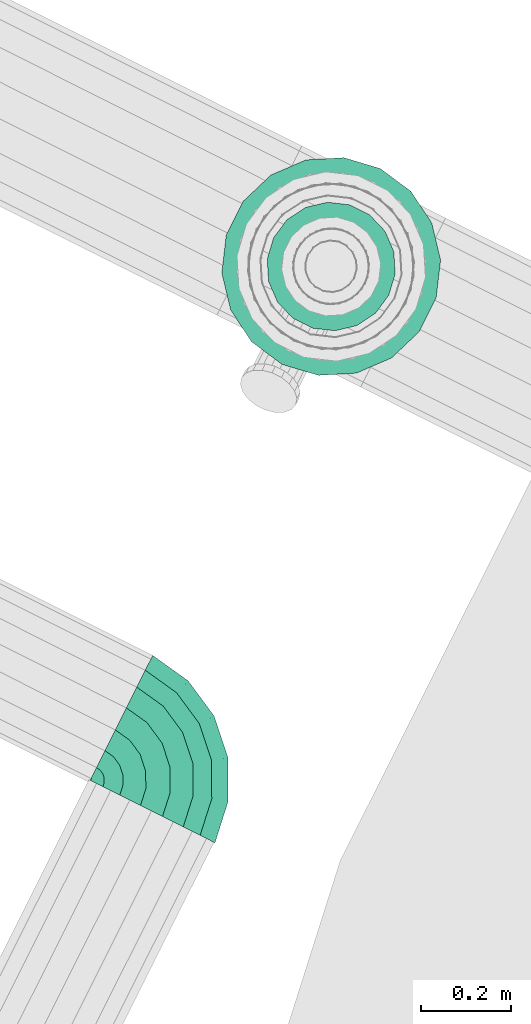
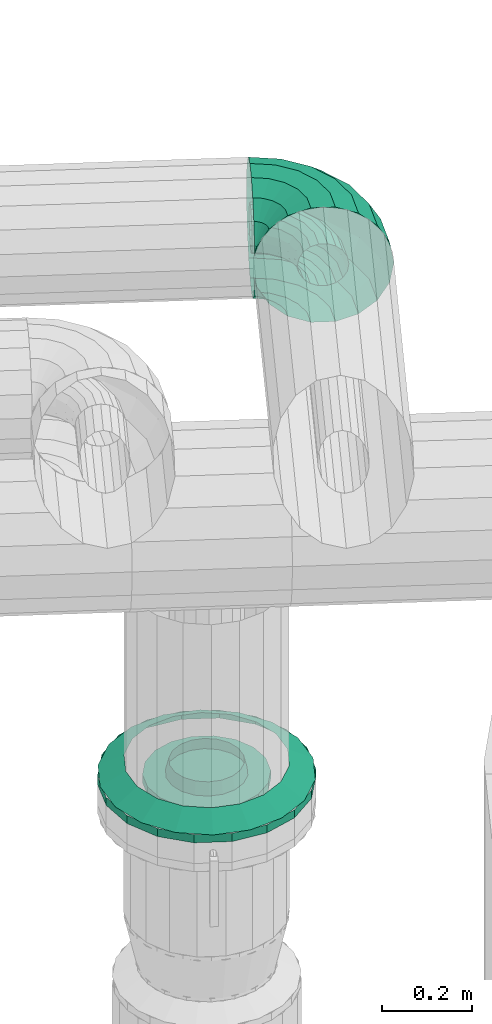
# One storey, part 58 of 152: 1 flow fitting, 1 flow segment.
"""IFC2X3 building model written with IfcOpenShell, lengths in metres."""

from ifc_helpers import new_model, si_unit, derived_unit, direction, frame, origin, place, context, subcontext, project, spatial, face_set, surface_model, source, transform, mapped, material, type_object, type_shapes, element, save


model = new_model("IFC2X3")

# Units and contexts
model_context = context("Model", 3, precision=5.2338327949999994e-05, world=origin(), true_north=direction((0.0, 1.0)))
body_context = subcontext(model_context, "Body", "Model", "MODEL_VIEW")
ifc_project = project(units=[si_unit("LENGTHUNIT", "METRE"), si_unit("AREAUNIT", "SQUARE_METRE"), si_unit("VOLUMEUNIT", "CUBIC_METRE"), si_unit("MASSUNIT", "GRAM", prefix="KILO"), si_unit("PLANEANGLEUNIT", "RADIAN"), derived_unit("THERMALTRANSMITTANCEUNIT", [(si_unit("MASSUNIT", "GRAM", prefix="KILO"), 1), (si_unit("THERMODYNAMICTEMPERATUREUNIT", "KELVIN"), -1), (si_unit("TIMEUNIT", "SECOND"), -3)])], contexts=[model_context])

# Site, building, storey
site_placement = place(None, frame((0.0, 0.0, 0.0), z_axis=(0.0, 0.0, 1.0), x_axis=(0.8939966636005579, -0.4480736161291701, 0.0)))
site = spatial("IfcSite", under=ifc_project, at=site_placement, Name="Default", CompositionType="ELEMENT")
building_placement = place(site_placement, origin())
building = spatial("IfcBuilding", under=site, at=building_placement, CompositionType="ELEMENT")
storey_placement = place(building_placement, frame((0.0, 0.0, 2.7499999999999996)))
storey = spatial("IfcBuildingStorey", under=building, at=storey_placement, Name="1. Obergeschoss", CompositionType="ELEMENT", Elevation=2.7499999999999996)

# Flow segment
ifc_material = material(Name="IfcSurfaceStyle #1741")
distribution_element_type_1 = type_object("IfcDistributionElementType", Name="Rohrbogen 226821:Rohrbogen 226821", material=ifc_material)
shared_shape_1 = source(origin(), body_context, "Body", "SurfaceModel", [
    surface_model("IfcFaceBasedSurfaceModel", [(25.671214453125, 7.268549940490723, 6.670399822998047), (25.681451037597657, 7.20391900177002, 6.670399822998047), (25.667935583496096, 7.267484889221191, 6.6508533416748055), (25.678002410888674, 7.20391900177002, 6.6508533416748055), (25.64150696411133, 7.326854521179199, 6.670399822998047), (25.63871643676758, 7.324828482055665, 6.6508533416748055), (25.59523536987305, 7.373124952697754, 6.670399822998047), (25.593209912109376, 7.370336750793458, 6.6508533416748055), (25.536931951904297, 7.402832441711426, 6.670399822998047), (25.535866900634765, 7.399554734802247, 6.6508533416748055), (25.472301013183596, 7.413069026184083, 6.670399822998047), (25.472301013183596, 7.409622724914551, 6.6508533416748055), (25.668079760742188, 7.20391900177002, 6.633664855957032), (25.65849662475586, 7.264418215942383, 6.633664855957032), (25.630689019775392, 7.318995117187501, 6.633664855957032), (25.587375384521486, 7.362308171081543, 6.633664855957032), (25.532799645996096, 7.390116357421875, 6.633664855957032), (25.472301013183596, 7.399698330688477, 6.633664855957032), (25.652876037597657, 7.20391900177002, 6.620906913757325), (25.64403704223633, 7.259719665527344, 6.620906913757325), (25.61838744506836, 7.310058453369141, 6.620906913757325), (25.578438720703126, 7.350007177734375, 6.620906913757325), (25.52809993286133, 7.375656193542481, 6.620906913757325), (25.472301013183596, 7.384494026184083, 6.620906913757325), (25.62629859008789, 7.253956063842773, 6.614118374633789), (25.634223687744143, 7.20391900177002, 6.614118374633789), (25.603299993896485, 7.299095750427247, 6.614118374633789), (25.567476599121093, 7.334918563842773, 6.614118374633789), (25.522337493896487, 7.3579177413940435, 6.614118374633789), (25.472301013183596, 7.365842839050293, 6.614118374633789), (25.61437606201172, 7.20391900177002, 6.614118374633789), (25.607422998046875, 7.247822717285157, 6.614118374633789), (25.587242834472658, 7.287429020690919, 6.614118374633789), (25.555809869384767, 7.318860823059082, 6.614118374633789), (25.51620298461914, 7.339041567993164, 6.614118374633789), (25.472301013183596, 7.345995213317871, 6.614118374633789), (25.595726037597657, 7.20391900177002, 6.620906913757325), (25.58968454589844, 7.24205969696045, 6.620906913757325), (25.57215305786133, 7.276466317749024, 6.620906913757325), (25.544847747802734, 7.303772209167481, 6.620906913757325), (25.510440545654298, 7.321303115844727, 6.620906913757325), (25.472301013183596, 7.3273440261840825, 6.620906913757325), (25.575224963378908, 7.23736114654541, 6.633664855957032), (25.580519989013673, 7.20391900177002, 6.633664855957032), (25.559851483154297, 7.267529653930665, 6.633664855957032), (25.535911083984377, 7.291471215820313, 6.633664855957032), (25.505740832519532, 7.306842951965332, 6.633664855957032), (25.472301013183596, 7.312139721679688, 6.633664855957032), (25.570597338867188, 7.20391900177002, 6.6508533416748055), (25.565786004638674, 7.234294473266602, 6.6508533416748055), (25.551824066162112, 7.261696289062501, 6.6508533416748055), (25.530076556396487, 7.283442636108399, 6.6508533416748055), (25.502675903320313, 7.297404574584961, 6.6508533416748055), (25.472301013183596, 7.302215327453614, 6.6508533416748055), (25.567151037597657, 7.20391900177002, 6.670399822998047), (25.562507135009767, 7.233229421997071, 6.670399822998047), (25.549035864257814, 7.259670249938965, 6.670399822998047), (25.528051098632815, 7.280654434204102, 6.670399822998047), (25.50161085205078, 7.294126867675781, 6.670399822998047), (25.472301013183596, 7.2987690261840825, 6.670399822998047), (25.565786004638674, 7.234294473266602, 6.689946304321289), (25.570597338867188, 7.20391900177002, 6.689946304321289), (25.551824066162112, 7.261696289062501, 6.689946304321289), (25.530076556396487, 7.283442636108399, 6.689946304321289), (25.502675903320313, 7.297404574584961, 6.689946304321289), (25.472301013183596, 7.302215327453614, 6.689946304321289), (25.575224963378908, 7.23736114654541, 6.707135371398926), (25.580519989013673, 7.20391900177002, 6.707135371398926), (25.559851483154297, 7.267529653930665, 6.707135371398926), (25.535911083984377, 7.291471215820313, 6.707135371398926), (25.505740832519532, 7.306842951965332, 6.707135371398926), (25.472301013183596, 7.312139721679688, 6.707135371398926), (25.595726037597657, 7.20391900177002, 6.719893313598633), (25.58968454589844, 7.24205969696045, 6.719893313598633), (25.57215305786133, 7.276466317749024, 6.719893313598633), (25.544847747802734, 7.303772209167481, 6.719893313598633), (25.510440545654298, 7.321303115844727, 6.719893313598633), (25.472301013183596, 7.3273440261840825, 6.719893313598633), (25.61437606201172, 7.20391900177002, 6.726681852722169), (25.607422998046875, 7.247822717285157, 6.726681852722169), (25.587242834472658, 7.287429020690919, 6.726681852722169), (25.555809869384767, 7.318860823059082, 6.726681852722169), (25.51620298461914, 7.339041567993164, 6.726681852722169), (25.472301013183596, 7.345995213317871, 6.726681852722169), (25.634223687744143, 7.20391900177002, 6.726681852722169), (25.62629859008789, 7.253956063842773, 6.726681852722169), (25.603299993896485, 7.299095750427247, 6.726681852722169), (25.567476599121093, 7.334918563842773, 6.726681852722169), (25.522337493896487, 7.3579177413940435, 6.726681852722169), (25.472301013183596, 7.365842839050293, 6.726681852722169), (25.64403704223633, 7.259719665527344, 6.719893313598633), (25.652876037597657, 7.20391900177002, 6.719893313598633), (25.61838744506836, 7.310058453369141, 6.719893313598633), (25.578438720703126, 7.350007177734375, 6.719893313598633), (25.52809993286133, 7.375656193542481, 6.719893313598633), (25.472301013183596, 7.384494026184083, 6.719893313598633), (25.668079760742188, 7.20391900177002, 6.707135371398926), (25.65849662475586, 7.264418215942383, 6.707135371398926), (25.630689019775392, 7.318995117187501, 6.707135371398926), (25.587375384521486, 7.362308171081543, 6.707135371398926), (25.532799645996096, 7.390116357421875, 6.707135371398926), (25.472301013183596, 7.399698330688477, 6.707135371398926), (25.667935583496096, 7.267484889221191, 6.689946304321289), (25.678002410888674, 7.20391900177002, 6.689946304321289), (25.63871643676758, 7.324828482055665, 6.689946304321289), (25.593209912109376, 7.370336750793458, 6.689946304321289), (25.535866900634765, 7.399554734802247, 6.689946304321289), (25.472301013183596, 7.409622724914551, 6.689946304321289), (25.766320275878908, 7.299451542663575, 6.670399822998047), (25.78144958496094, 7.20391900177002, 6.670399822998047), (25.771973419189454, 7.20391900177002, 6.616651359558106), (25.75730454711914, 7.296523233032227, 6.616651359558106), (25.722406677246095, 7.38563291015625, 6.670399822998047), (25.71473970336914, 7.38006231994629, 6.616651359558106), (25.654013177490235, 7.454026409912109, 6.670399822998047), (25.648443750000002, 7.446359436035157, 6.616651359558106), (25.567832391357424, 7.497938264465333, 6.670399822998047), (25.56490466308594, 7.48892486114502, 6.616651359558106), (25.472301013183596, 7.513069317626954, 6.670399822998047), (25.472301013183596, 7.503591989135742, 6.616651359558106), (25.744684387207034, 7.20391900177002, 6.569385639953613), (25.731352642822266, 7.288090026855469, 6.569385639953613), (25.692664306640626, 7.3640220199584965, 6.569385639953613), (25.632402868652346, 7.4242822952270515, 6.569385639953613), (25.556470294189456, 7.462971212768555, 6.569385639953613), (25.472301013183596, 7.476302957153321, 6.569385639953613), (25.69158995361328, 7.27517046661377, 6.53430406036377), (25.7028753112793, 7.20391900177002, 6.53430406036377), (25.65883846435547, 7.339447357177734, 6.53430406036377), (25.60782762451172, 7.390458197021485, 6.53430406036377), (25.543552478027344, 7.423209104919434, 6.53430406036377), (25.472301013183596, 7.4344938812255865, 6.53430406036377), (25.651587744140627, 7.20391900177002, 6.515637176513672), (25.642813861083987, 7.259322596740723, 6.515637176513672), (25.617347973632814, 7.309302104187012, 6.515637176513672), (25.57768295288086, 7.348966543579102, 6.515637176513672), (25.527702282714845, 7.374433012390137, 6.515637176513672), (25.472301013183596, 7.383208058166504, 6.515637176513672), (25.597012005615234, 7.20391900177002, 6.515637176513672), (25.590907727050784, 7.242456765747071, 6.515637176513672), (25.573192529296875, 7.277222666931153, 6.515637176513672), (25.545603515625, 7.304812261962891, 6.515637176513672), (25.510838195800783, 7.32252629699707, 6.515637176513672), (25.472301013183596, 7.328629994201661, 6.515637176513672), (25.545724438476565, 7.20391900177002, 6.53430406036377), (25.542131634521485, 7.22660831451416, 6.53430406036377), (25.53170203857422, 7.24707741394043, 6.53430406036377), (25.515458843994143, 7.263321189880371, 6.53430406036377), (25.494990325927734, 7.273750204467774, 6.53430406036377), (25.472301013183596, 7.277344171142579, 6.53430406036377), (25.50391536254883, 7.20391900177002, 6.569385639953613), (25.5023689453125, 7.213688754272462, 6.569385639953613), (25.497878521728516, 7.222502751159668, 6.569385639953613), (25.490883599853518, 7.229497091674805, 6.569385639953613), (25.482070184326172, 7.233987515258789, 6.569385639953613), (25.472301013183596, 7.2355350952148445, 6.569385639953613), (25.476414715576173, 7.205256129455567, 6.616651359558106), (25.476626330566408, 7.20391900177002, 6.616651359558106), (25.47580079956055, 7.206462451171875, 6.616651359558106), (25.47484271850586, 7.2074199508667, 6.616651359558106), (25.47363814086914, 7.208034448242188, 6.616651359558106), (25.472301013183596, 7.208246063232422, 6.616651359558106), (25.472298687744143, 7.20391900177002, 6.641194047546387), (25.472298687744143, 7.2046619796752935, 6.64052664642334), (25.472298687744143, 7.20391900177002, 6.699606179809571), (25.472298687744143, 7.2046619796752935, 6.700273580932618), (25.476414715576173, 7.205256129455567, 6.7241482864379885), (25.476626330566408, 7.20391900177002, 6.7241482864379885), (25.47580079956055, 7.206462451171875, 6.7241482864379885), (25.47484271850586, 7.2074199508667, 6.7241482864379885), (25.47363814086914, 7.208034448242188, 6.7241482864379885), (25.472301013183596, 7.208246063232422, 6.7241482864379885), (25.50391536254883, 7.20391900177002, 6.771414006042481), (25.5023689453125, 7.213688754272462, 6.771414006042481), (25.497878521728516, 7.222502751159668, 6.771414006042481), (25.490883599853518, 7.229497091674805, 6.771414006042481), (25.482070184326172, 7.233987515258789, 6.771414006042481), (25.472301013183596, 7.2355350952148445, 6.771414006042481), (25.545724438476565, 7.20391900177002, 6.806496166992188), (25.542131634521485, 7.22660831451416, 6.806496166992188), (25.53170203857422, 7.24707741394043, 6.806496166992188), (25.515458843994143, 7.263321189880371, 6.806496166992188), (25.494990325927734, 7.273750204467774, 6.806496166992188), (25.472301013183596, 7.277344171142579, 6.806496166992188), (25.597012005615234, 7.20391900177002, 6.8251624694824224), (25.590907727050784, 7.242456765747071, 6.8251624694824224), (25.573192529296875, 7.277222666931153, 6.8251624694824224), (25.545603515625, 7.304812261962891, 6.8251624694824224), (25.510838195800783, 7.32252629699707, 6.8251624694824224), (25.472301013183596, 7.328629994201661, 6.8251624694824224), (25.651587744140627, 7.20391900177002, 6.8251624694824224), (25.642813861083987, 7.259322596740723, 6.8251624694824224), (25.617347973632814, 7.309302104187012, 6.8251624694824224), (25.57768295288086, 7.348966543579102, 6.8251624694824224), (25.527702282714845, 7.374433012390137, 6.8251624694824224), (25.472301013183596, 7.383208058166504, 6.8251624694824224), (25.69158995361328, 7.27517046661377, 6.806496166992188), (25.7028753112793, 7.20391900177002, 6.806496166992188), (25.65883846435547, 7.339447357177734, 6.806496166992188), (25.60782762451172, 7.390458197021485, 6.806496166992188), (25.543552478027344, 7.423209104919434, 6.806496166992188), (25.472301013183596, 7.4344938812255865, 6.806496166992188), (25.744684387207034, 7.20391900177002, 6.771414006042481), (25.731352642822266, 7.288090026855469, 6.771414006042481), (25.692664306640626, 7.3640220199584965, 6.771414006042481), (25.632402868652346, 7.4242822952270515, 6.771414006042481), (25.556470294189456, 7.462971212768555, 6.771414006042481), (25.472301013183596, 7.476302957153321, 6.771414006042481), (25.75730454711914, 7.296523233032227, 6.7241482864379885), (25.771973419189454, 7.20391900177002, 6.7241482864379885), (25.71473970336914, 7.38006231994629, 6.7241482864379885), (25.648443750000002, 7.446359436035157, 6.7241482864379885), (25.56490466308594, 7.48892486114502, 6.7241482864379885), (25.472301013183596, 7.503591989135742, 6.7241482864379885)], [face_set([[[0, 1, 2]], [[3, 2, 1]], [[4, 0, 5]], [[2, 5, 0]], [[6, 4, 7]], [[5, 7, 4]], [[8, 6, 7]], [[7, 9, 8]], [[10, 8, 9]], [[9, 11, 10]], [[2, 3, 12]], [[12, 13, 2]], [[5, 2, 13]], [[13, 14, 5]], [[7, 5, 15]], [[14, 15, 5]], [[9, 7, 16]], [[15, 16, 7]], [[11, 9, 17]], [[16, 17, 9]], [[13, 12, 18]], [[18, 19, 13]], [[14, 13, 19]], [[19, 20, 14]], [[15, 14, 21]], [[20, 21, 14]], [[16, 15, 21]], [[21, 22, 16]], [[17, 16, 22]], [[22, 23, 17]], [[19, 18, 24]], [[25, 24, 18]], [[20, 19, 26]], [[24, 26, 19]], [[21, 20, 26]], [[26, 27, 21]], [[22, 21, 27]], [[27, 28, 22]], [[23, 22, 28]], [[28, 29, 23]], [[24, 25, 30]], [[30, 31, 24]], [[26, 24, 32]], [[31, 32, 24]], [[27, 26, 33]], [[32, 33, 26]], [[28, 27, 34]], [[33, 34, 27]], [[29, 28, 34]], [[34, 35, 29]], [[31, 30, 36]], [[36, 37, 31]], [[32, 31, 38]], [[37, 38, 31]], [[33, 32, 38]], [[38, 39, 33]], [[34, 33, 40]], [[39, 40, 33]], [[35, 34, 41]], [[40, 41, 34]], [[37, 36, 42]], [[43, 42, 36]], [[38, 37, 44]], [[42, 44, 37]], [[39, 38, 45]], [[44, 45, 38]], [[40, 39, 46]], [[45, 46, 39]], [[41, 40, 46]], [[46, 47, 41]], [[42, 43, 48]], [[48, 49, 42]], [[44, 42, 49]], [[49, 50, 44]], [[45, 44, 50]], [[50, 51, 45]], [[46, 45, 51]], [[51, 52, 46]], [[47, 46, 52]], [[52, 53, 47]], [[49, 48, 54]], [[54, 55, 49]], [[50, 49, 56]], [[55, 56, 49]], [[51, 50, 57]], [[56, 57, 50]], [[52, 51, 58]], [[57, 58, 51]], [[53, 52, 58]], [[58, 59, 53]], [[55, 54, 60]], [[61, 60, 54]], [[56, 55, 60]], [[60, 62, 56]], [[57, 56, 62]], [[62, 63, 57]], [[58, 57, 63]], [[63, 64, 58]], [[59, 58, 65]], [[64, 65, 58]], [[60, 61, 66]], [[67, 66, 61]], [[62, 60, 68]], [[66, 68, 60]], [[63, 62, 68]], [[68, 69, 63]], [[64, 63, 69]], [[69, 70, 64]], [[65, 64, 71]], [[70, 71, 64]], [[66, 67, 72]], [[72, 73, 66]], [[68, 66, 73]], [[73, 74, 68]], [[69, 68, 75]], [[74, 75, 68]], [[70, 69, 76]], [[75, 76, 69]], [[71, 70, 76]], [[76, 77, 71]], [[73, 72, 78]], [[78, 79, 73]], [[74, 73, 80]], [[79, 80, 73]], [[75, 74, 80]], [[80, 81, 75]], [[76, 75, 81]], [[81, 82, 76]], [[77, 76, 82]], [[82, 83, 77]], [[79, 78, 84]], [[84, 85, 79]], [[80, 79, 86]], [[85, 86, 79]], [[81, 80, 87]], [[86, 87, 80]], [[82, 81, 88]], [[87, 88, 81]], [[83, 82, 88]], [[88, 89, 83]], [[85, 84, 90]], [[91, 90, 84]], [[86, 85, 90]], [[90, 92, 86]], [[87, 86, 93]], [[92, 93, 86]], [[88, 87, 94]], [[93, 94, 87]], [[89, 88, 95]], [[94, 95, 88]], [[90, 91, 96]], [[96, 97, 90]], [[92, 90, 97]], [[97, 98, 92]], [[93, 92, 98]], [[98, 99, 93]], [[94, 93, 100]], [[99, 100, 93]], [[95, 94, 101]], [[100, 101, 94]], [[97, 96, 102]], [[103, 102, 96]], [[98, 97, 102]], [[102, 104, 98]], [[99, 98, 105]], [[104, 105, 98]], [[100, 99, 105]], [[105, 106, 100]], [[101, 100, 106]], [[106, 107, 101]], [[102, 103, 1]], [[1, 0, 102]], [[104, 102, 0]], [[0, 4, 104]], [[105, 104, 4]], [[4, 6, 105]], [[106, 105, 8]], [[6, 8, 105]], [[107, 106, 10]], [[8, 10, 106]], [[108, 109, 110]], [[110, 111, 108]], [[112, 108, 113]], [[111, 113, 108]], [[114, 112, 113]], [[113, 115, 114]], [[116, 114, 115]], [[115, 117, 116]], [[118, 116, 117]], [[117, 119, 118]], [[111, 110, 120]], [[120, 121, 111]], [[113, 111, 122]], [[121, 122, 111]], [[115, 113, 123]], [[122, 123, 113]], [[117, 115, 123]], [[123, 124, 117]], [[119, 117, 124]], [[124, 125, 119]], [[121, 120, 126]], [[127, 126, 120]], [[122, 121, 128]], [[126, 128, 121]], [[123, 122, 128]], [[128, 129, 123]], [[124, 123, 129]], [[129, 130, 124]], [[125, 124, 130]], [[130, 131, 125]], [[126, 127, 132]], [[132, 133, 126]], [[128, 126, 134]], [[133, 134, 126]], [[129, 128, 134]], [[134, 135, 129]], [[130, 129, 135]], [[135, 136, 130]], [[131, 130, 137]], [[136, 137, 130]], [[133, 132, 138]], [[138, 139, 133]], [[134, 133, 140]], [[139, 140, 133]], [[135, 134, 140]], [[140, 141, 135]], [[136, 135, 141]], [[141, 142, 136]], [[137, 136, 142]], [[142, 143, 137]], [[139, 138, 144]], [[144, 145, 139]], [[140, 139, 146]], [[145, 146, 139]], [[141, 140, 147]], [[146, 147, 140]], [[142, 141, 147]], [[147, 148, 142]], [[143, 142, 148]], [[148, 149, 143]], [[145, 144, 150]], [[150, 151, 145]], [[146, 145, 152]], [[151, 152, 145]], [[147, 146, 152]], [[152, 153, 147]], [[148, 147, 153]], [[153, 154, 148]], [[149, 148, 154]], [[154, 155, 149]], [[151, 150, 156]], [[157, 156, 150]], [[152, 151, 158]], [[156, 158, 151]], [[153, 152, 158]], [[158, 159, 153]], [[154, 153, 159]], [[159, 160, 154]], [[155, 154, 160]], [[160, 161, 155]], [[162, 156, 163]], [[162, 163, 157]], [[156, 157, 163]], [[158, 156, 162]], [[159, 158, 162]], [[160, 159, 162]], [[161, 160, 162]], [[164, 165, 166]], [[167, 166, 165]], [[165, 164, 167]], [[166, 168, 164]], [[164, 168, 169]], [[169, 170, 164]], [[170, 171, 164]], [[166, 167, 172]], [[172, 173, 166]], [[168, 166, 173]], [[173, 174, 168]], [[169, 168, 175]], [[174, 175, 168]], [[170, 169, 176]], [[175, 176, 169]], [[171, 170, 177]], [[176, 177, 170]], [[173, 172, 178]], [[178, 179, 173]], [[174, 173, 179]], [[179, 180, 174]], [[175, 174, 181]], [[180, 181, 174]], [[176, 175, 181]], [[181, 182, 176]], [[177, 176, 182]], [[182, 183, 177]], [[179, 178, 184]], [[184, 185, 179]], [[180, 179, 186]], [[185, 186, 179]], [[181, 180, 187]], [[186, 187, 180]], [[182, 181, 188]], [[187, 188, 181]], [[183, 182, 189]], [[188, 189, 182]], [[185, 184, 190]], [[190, 191, 185]], [[186, 185, 191]], [[191, 192, 186]], [[187, 186, 193]], [[192, 193, 186]], [[188, 187, 194]], [[193, 194, 187]], [[189, 188, 195]], [[194, 195, 188]], [[191, 190, 196]], [[197, 196, 190]], [[192, 191, 196]], [[196, 198, 192]], [[193, 192, 199]], [[198, 199, 192]], [[194, 193, 200]], [[199, 200, 193]], [[195, 194, 200]], [[200, 201, 195]], [[196, 197, 202]], [[202, 203, 196]], [[198, 196, 204]], [[203, 204, 196]], [[199, 198, 205]], [[204, 205, 198]], [[200, 199, 206]], [[205, 206, 199]], [[201, 200, 207]], [[206, 207, 200]], [[203, 202, 208]], [[209, 208, 202]], [[204, 203, 208]], [[208, 210, 204]], [[205, 204, 210]], [[210, 211, 205]], [[206, 205, 211]], [[211, 212, 206]], [[207, 206, 213]], [[212, 213, 206]], [[208, 209, 109]], [[109, 108, 208]], [[210, 208, 112]], [[108, 112, 208]], [[211, 210, 114]], [[112, 114, 210]], [[212, 211, 116]], [[114, 116, 211]], [[213, 212, 118]], [[116, 118, 212]]])]),
])
type_shapes(distribution_element_type_1, [shared_shape_1])
flow_segment_placement = place(storey_placement, frame((0.0, 0.0, -2.7499999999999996)))
element("IfcFlowSegment", 1, at=flow_segment_placement, inside=storey, type_object=distribution_element_type_1, material=ifc_material, Name="Rohrbogen", ObjectType="Rohrbogen", context=body_context, shape_type="MappedRepresentation", body=[
    mapped(shared_shape_1, transform((0.0, 0.0, 0.0), scale=1.0)),
])

# Flow fitting
distribution_element_type_2 = type_object("IfcDistributionElementType", Name="Flansch 614336:Flansch 614336", material=ifc_material)
shared_shape_2 = source(origin(), body_context, "Body", "SurfaceModel", [
    surface_model("IfcFaceBasedSurfaceModel", [(25.58235543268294, 8.459715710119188, 4.4051834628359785), (25.573761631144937, 8.508453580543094, 4.4051834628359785), (25.573761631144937, 8.508453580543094, 4.42718346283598), (25.58235543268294, 8.459715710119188, 4.42718346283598), (25.549016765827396, 8.551312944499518, 4.4051834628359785), (25.549016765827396, 8.551312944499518, 4.42718346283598), (25.511105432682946, 8.583124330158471, 4.4051834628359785), (25.511105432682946, 8.583124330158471, 4.42718346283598), (25.46460029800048, 8.600050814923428, 4.4051834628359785), (25.46460029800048, 8.600050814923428, 4.42718346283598), (25.415110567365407, 8.600050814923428, 4.4051834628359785), (25.415110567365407, 8.600050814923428, 4.42718346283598), (25.36860543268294, 8.583124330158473, 4.4051834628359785), (25.36860543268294, 8.583124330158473, 4.42718346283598), (25.33069409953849, 8.551312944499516, 4.4051834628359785), (25.33069409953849, 8.551312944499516, 4.42718346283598), (25.30594923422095, 8.50845358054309, 4.4051834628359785), (25.30594923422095, 8.50845358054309, 4.42718346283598), (25.29735543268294, 8.459715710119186, 4.4051834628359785), (25.29735543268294, 8.459715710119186, 4.42718346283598), (25.30594923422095, 8.410977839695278, 4.4051834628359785), (25.30594923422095, 8.410977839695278, 4.42718346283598), (25.33069409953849, 8.368118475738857, 4.4051834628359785), (25.33069409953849, 8.368118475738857, 4.42718346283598), (25.368605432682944, 8.336307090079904, 4.4051834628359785), (25.368605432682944, 8.336307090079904, 4.42718346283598), (25.41511056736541, 8.319380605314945, 4.4051834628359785), (25.41511056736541, 8.319380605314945, 4.42718346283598), (25.464600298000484, 8.319380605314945, 4.4051834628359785), (25.464600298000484, 8.319380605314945, 4.42718346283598), (25.511105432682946, 8.336307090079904, 4.4051834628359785), (25.511105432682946, 8.336307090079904, 4.42718346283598), (25.549016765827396, 8.368118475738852, 4.4051834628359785), (25.549016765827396, 8.368118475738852, 4.42718346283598), (25.57376163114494, 8.410977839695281, 4.4051834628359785), (25.57376163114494, 8.410977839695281, 4.42718346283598), (25.439855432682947, 8.459715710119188, 4.427183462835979), (25.43985543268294, 8.551715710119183, 4.42718346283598), (25.408389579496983, 8.546167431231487, 4.42718346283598), (25.41107443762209, 8.53879084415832, 4.460183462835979), (25.439855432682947, 8.543865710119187, 4.460183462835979), (25.38071897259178, 8.53019179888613, 4.42718346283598), (25.38576485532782, 8.524178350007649, 4.460183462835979), (25.360181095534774, 8.505715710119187, 4.42718346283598), (25.36697939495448, 8.501790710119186, 4.460183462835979), (25.349253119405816, 8.475691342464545, 4.4271834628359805), (25.356983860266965, 8.474328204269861, 4.460183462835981), (25.349253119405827, 8.443740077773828, 4.427183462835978), (25.356983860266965, 8.445103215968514, 4.460183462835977), (25.360181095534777, 8.413715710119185, 4.42718346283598), (25.366979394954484, 8.417640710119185, 4.460183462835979), (25.38071897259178, 8.38923962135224, 4.42718346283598), (25.385764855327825, 8.395253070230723, 4.460183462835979), (25.408389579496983, 8.373263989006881, 4.42718346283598), (25.411074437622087, 8.38064057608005, 4.460183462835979), (25.43985543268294, 8.367715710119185, 4.42718346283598), (25.439855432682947, 8.375565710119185, 4.460183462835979), (25.471321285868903, 8.373263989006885, 4.42718346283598), (25.4686364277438, 8.380640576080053, 4.460183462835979), (25.498991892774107, 8.389239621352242, 4.42718346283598), (25.493946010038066, 8.395253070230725, 4.460183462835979), (25.519529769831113, 8.413715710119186, 4.42718346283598), (25.512731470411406, 8.417640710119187, 4.460183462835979), (25.530457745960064, 8.443740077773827, 4.4271834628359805), (25.522727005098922, 8.445103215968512, 4.460183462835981), (25.530457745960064, 8.475691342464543, 4.4271834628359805), (25.522727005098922, 8.474328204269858, 4.460183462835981), (25.519529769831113, 8.505715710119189, 4.42718346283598), (25.512731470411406, 8.50179071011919, 4.460183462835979), (25.498991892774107, 8.53019179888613, 4.42718346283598), (25.493946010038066, 8.524178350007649, 4.460183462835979), (25.471321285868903, 8.546167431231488, 4.42718346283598), (25.4686364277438, 8.538790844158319, 4.460183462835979), (25.682355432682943, 8.459715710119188, 4.4051834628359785), (25.667730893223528, 8.542655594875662, 4.4051834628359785), (25.667730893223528, 8.542655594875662, 4.42718346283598), (25.682355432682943, 8.45971571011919, 4.42718346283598), (25.625621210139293, 8.615591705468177, 4.4051834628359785), (25.625621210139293, 8.615591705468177, 4.42718346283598), (25.561105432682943, 8.669726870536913, 4.4051834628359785), (25.561105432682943, 8.669726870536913, 4.42718346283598), (25.48196511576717, 8.698531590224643, 4.4051834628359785), (25.48196511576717, 8.698531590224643, 4.42718346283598), (25.397745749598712, 8.698531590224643, 4.4051834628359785), (25.397745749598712, 8.698531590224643, 4.42718346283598), (25.318605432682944, 8.669726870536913, 4.4051834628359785), (25.318605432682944, 8.669726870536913, 4.42718346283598), (25.254089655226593, 8.615591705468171, 4.4051834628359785), (25.254089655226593, 8.615591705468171, 4.42718346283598), (25.21197997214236, 8.54265559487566, 4.4051834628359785), (25.21197997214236, 8.54265559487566, 4.42718346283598), (25.197355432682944, 8.459715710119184, 4.4051834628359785), (25.197355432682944, 8.459715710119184, 4.42718346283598), (25.21197997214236, 8.376775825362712, 4.4051834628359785), (25.21197997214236, 8.376775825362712, 4.42718346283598), (25.254089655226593, 8.3038397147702, 4.4051834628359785), (25.254089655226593, 8.3038397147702, 4.42718346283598), (25.318605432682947, 8.24970454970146, 4.4051834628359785), (25.318605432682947, 8.24970454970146, 4.42718346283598), (25.397745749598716, 8.220899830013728, 4.4051834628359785), (25.397745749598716, 8.220899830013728, 4.42718346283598), (25.481965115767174, 8.220899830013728, 4.4051834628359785), (25.481965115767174, 8.220899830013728, 4.42718346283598), (25.561105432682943, 8.24970454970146, 4.4051834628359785), (25.561105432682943, 8.24970454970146, 4.42718346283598), (25.625621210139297, 8.303839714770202, 4.4051834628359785), (25.625621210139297, 8.303839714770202, 4.42718346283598), (25.667730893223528, 8.376775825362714, 4.4051834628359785), (25.667730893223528, 8.376775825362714, 4.42718346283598), (25.43985543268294, 8.702215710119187, 4.42718346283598), (25.35691554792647, 8.687591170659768, 4.42718346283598), (25.376872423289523, 8.63276010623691, 4.46018346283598), (25.43985543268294, 8.643865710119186, 4.46018346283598), (25.283979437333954, 8.645481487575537, 4.42718346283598), (25.321486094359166, 8.600782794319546, 4.46018346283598), (25.229844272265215, 8.580965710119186, 4.42718346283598), (25.28037685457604, 8.551790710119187, 4.460183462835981), (25.20103955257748, 8.501825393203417, 4.42718346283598), (25.258503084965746, 8.491693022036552, 4.460183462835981), (25.201039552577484, 8.417606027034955, 4.427183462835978), (25.258503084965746, 8.42773839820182, 4.460183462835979), (25.22984427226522, 8.338465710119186, 4.42718346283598), (25.280376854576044, 8.367640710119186, 4.46018346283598), (25.283979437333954, 8.273949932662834, 4.42718346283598), (25.32148609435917, 8.318648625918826, 4.46018346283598), (25.35691554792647, 8.231840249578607, 4.427183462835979), (25.376872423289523, 8.286671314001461, 4.460183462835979), (25.43985543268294, 8.217215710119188, 4.42718346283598), (25.439855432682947, 8.275565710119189, 4.46018346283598), (25.522795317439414, 8.231840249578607, 4.42718346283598), (25.502838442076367, 8.286671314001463, 4.46018346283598), (25.59573142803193, 8.273949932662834, 4.42718346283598), (25.55822477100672, 8.318648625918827, 4.460183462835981), (25.64986659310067, 8.33846571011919, 4.427183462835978), (25.599334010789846, 8.367640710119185, 4.460183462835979), (25.678671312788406, 8.417606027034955, 4.42718346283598), (25.621207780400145, 8.427738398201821, 4.460183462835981), (25.678671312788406, 8.50182539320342, 4.42718346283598), (25.621207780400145, 8.491693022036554, 4.46018346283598), (25.64986659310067, 8.580965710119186, 4.42718346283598), (25.599334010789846, 8.551790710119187, 4.460183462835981), (25.595731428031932, 8.645481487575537, 4.427183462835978), (25.55822477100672, 8.600782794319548, 4.460183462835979), (25.522795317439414, 8.687591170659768, 4.42718346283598), (25.502838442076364, 8.632760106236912, 4.460183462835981)], [face_set([[[0, 1, 2, 3]], [[1, 4, 5, 2]], [[4, 6, 7, 5]], [[6, 8, 9, 7]], [[8, 10, 11, 9]], [[10, 12, 13, 11]], [[12, 14, 15, 13]], [[14, 16, 17, 15]], [[16, 18, 19, 17]], [[18, 20, 21, 19]], [[20, 22, 23, 21]], [[22, 24, 25, 23]], [[24, 26, 27, 25]], [[26, 28, 29, 27]], [[28, 30, 31, 29]], [[30, 32, 33, 31]], [[32, 34, 35, 33]], [[34, 0, 3, 35]], [[36, 35, 3]], [[36, 33, 35]], [[36, 31, 33]], [[36, 29, 31]], [[36, 27, 29]], [[36, 25, 27]], [[36, 23, 25]], [[36, 21, 23]], [[36, 19, 21]], [[36, 17, 19]], [[36, 15, 17]], [[36, 13, 15]], [[36, 11, 13]], [[36, 9, 11]], [[36, 7, 9]], [[36, 5, 7]], [[36, 2, 5]], [[36, 3, 2]], [[37, 38, 39, 40]], [[38, 41, 42, 39]], [[41, 43, 44, 42]], [[43, 45, 46, 44]], [[45, 47, 48, 46]], [[47, 49, 50, 48]], [[49, 51, 52, 50]], [[51, 53, 54, 52]], [[53, 55, 56, 54]], [[55, 57, 58, 56]], [[57, 59, 60, 58]], [[59, 61, 62, 60]], [[61, 63, 64, 62]], [[63, 65, 66, 64]], [[65, 67, 68, 66]], [[67, 69, 70, 68]], [[69, 71, 72, 70]], [[71, 37, 40, 72]], [[73, 74, 75, 76]], [[74, 77, 78, 75]], [[77, 79, 80, 78]], [[79, 81, 82, 80]], [[81, 83, 84, 82]], [[83, 85, 86, 84]], [[85, 87, 88, 86]], [[87, 89, 90, 88]], [[89, 91, 92, 90]], [[91, 93, 94, 92]], [[93, 95, 96, 94]], [[95, 97, 98, 96]], [[97, 99, 100, 98]], [[99, 101, 102, 100]], [[101, 103, 104, 102]], [[103, 105, 106, 104]], [[105, 107, 108, 106]], [[107, 73, 76, 108]], [[109, 110, 111, 112]], [[110, 113, 114, 111]], [[113, 115, 116, 114]], [[115, 117, 118, 116]], [[117, 119, 120, 118]], [[119, 121, 122, 120]], [[121, 123, 124, 122]], [[123, 125, 126, 124]], [[125, 127, 128, 126]], [[127, 129, 130, 128]], [[129, 131, 132, 130]], [[131, 133, 134, 132]], [[133, 135, 136, 134]], [[135, 137, 138, 136]], [[137, 139, 140, 138]], [[139, 141, 142, 140]], [[141, 143, 144, 142]], [[143, 109, 112, 144]]])]),
])
type_shapes(distribution_element_type_2, [shared_shape_2])
flow_fitting_placement = place(storey_placement, frame((0.0, 0.0, -2.7499999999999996)))
element("IfcFlowFitting", 2, at=flow_fitting_placement, inside=storey, type_object=distribution_element_type_2, material=ifc_material, Name="Flansch", ObjectType="Flansch", context=body_context, shape_type="MappedRepresentation", body=[
    mapped(shared_shape_2, transform((0.0, 0.0, 0.0), scale=1.0)),
])

save(model, "model.ifc")
